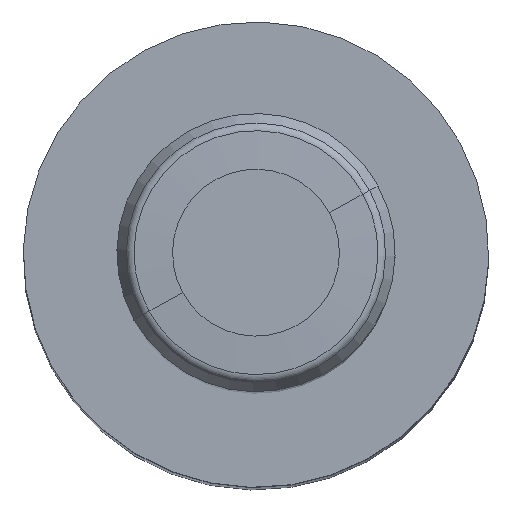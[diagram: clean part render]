
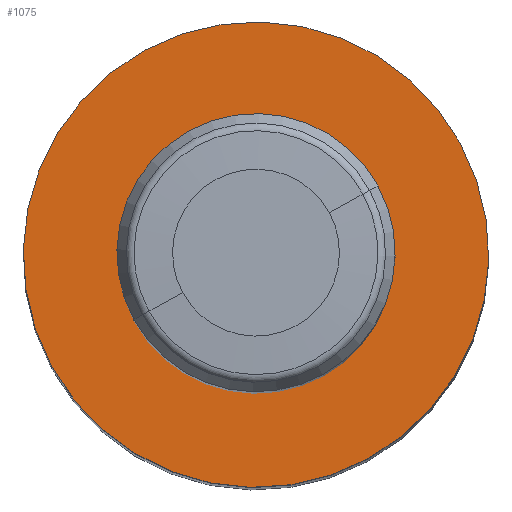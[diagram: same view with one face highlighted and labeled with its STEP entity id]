
A CAD part, top view. The second image highlights one B-rep face of the part: STEP entity #1075.
In plain terms, the highlighted planar face has unit normal (0, 0, 1).
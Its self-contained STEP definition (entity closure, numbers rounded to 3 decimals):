
#1052=CARTESIAN_POINT('Axis2P3D Location',(25.1,0.,72.)) ;
#1057=CARTESIAN_POINT('Axis2P3D Location',(0.,0.,72.)) ;
#1061=CARTESIAN_POINT('Vertex',(-22.027,-12.034,72.)) ;
#1063=CARTESIAN_POINT('Vertex',(22.027,12.034,72.)) ;
#1066=CARTESIAN_POINT('Axis2P3D Location',(0.,0.,72.)) ;
#1053=DIRECTION('Axis2P3D Direction',(0.,0.,1.)) ;
#1054=DIRECTION('Axis2P3D XDirection',(1.,0.,0.)) ;
#1058=DIRECTION('Axis2P3D Direction',(0.,0.,1.)) ;
#1067=DIRECTION('Axis2P3D Direction',(0.,0.,1.)) ;
#1055=AXIS2_PLACEMENT_3D('Plane Axis2P3D',#1052,#1053,#1054) ;
#1059=AXIS2_PLACEMENT_3D('Circle Axis2P3D',#1057,#1058,$) ;
#1068=AXIS2_PLACEMENT_3D('Circle Axis2P3D',#1066,#1067,$) ;
#1072=ORIENTED_EDGE('',*,*,#1065,.T.) ;
#1073=ORIENTED_EDGE('',*,*,#1070,.T.) ;
#1075=ADVANCED_FACE('',(#1074),#1056,.T.) ;
#1060=CIRCLE('generated circle',#1059,25.1) ;
#1069=CIRCLE('generated circle',#1068,25.1) ;
#1065=EDGE_CURVE('',#1062,#1064,#1060,.T.) ;
#1070=EDGE_CURVE('',#1064,#1062,#1069,.T.) ;
#1071=EDGE_LOOP('',(#1072,#1073)) ;
#1074=FACE_OUTER_BOUND('',#1071,.T.) ;
#1056=PLANE('Plane',#1055) ;
#1062=VERTEX_POINT('',#1061) ;
#1064=VERTEX_POINT('',#1063) ;
